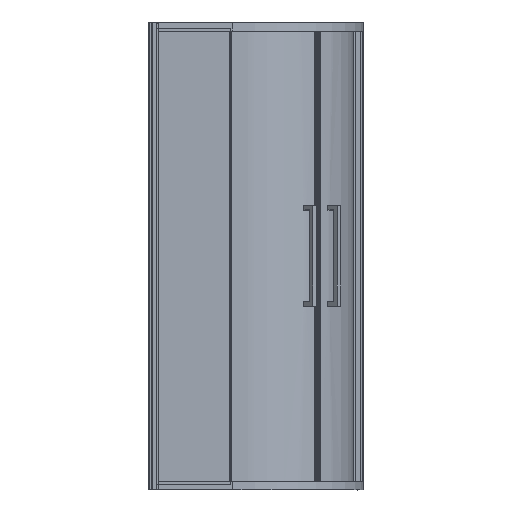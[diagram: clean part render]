
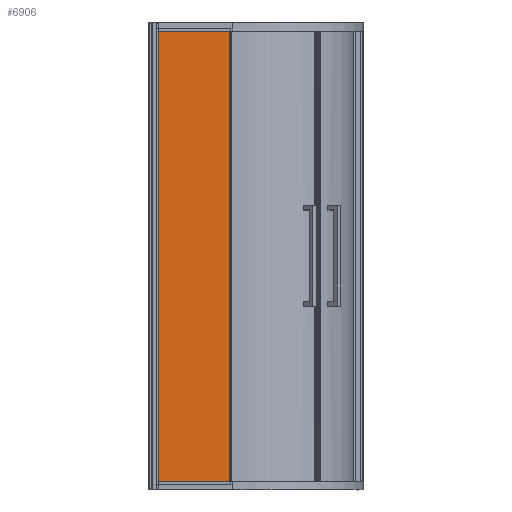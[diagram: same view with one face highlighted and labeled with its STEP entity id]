
A CAD part, front view. The second image highlights one B-rep face of the part: STEP entity #6906.
In plain terms, the highlighted planar face has unit normal (0, -1, 0) as drawn and (0, 0, 1) by its records, which use the part's own axes.
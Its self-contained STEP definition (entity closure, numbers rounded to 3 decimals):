
#6791=DIRECTION('',(0.,-1.,0.));
#6792=VECTOR('',#6791,1900.);
#6793=CARTESIAN_POINT('',(-155.,950.,4.));
#6794=LINE('',#6793,#6792);
#6795=DIRECTION('',(-1.,0.,0.));
#6796=VECTOR('',#6795,310.);
#6797=CARTESIAN_POINT('',(155.,950.,4.));
#6798=LINE('',#6797,#6796);
#6799=DIRECTION('',(0.,1.,0.));
#6800=VECTOR('',#6799,1900.);
#6801=CARTESIAN_POINT('',(155.,-950.,4.));
#6802=LINE('',#6801,#6800);
#6803=DIRECTION('',(1.,0.,0.));
#6804=VECTOR('',#6803,310.);
#6805=CARTESIAN_POINT('',(-155.,-950.,4.));
#6806=LINE('',#6805,#6804);
#6815=CARTESIAN_POINT('',(-155.,950.,4.));
#6816=CARTESIAN_POINT('',(-155.,-950.,4.));
#6817=VERTEX_POINT('',#6815);
#6818=VERTEX_POINT('',#6816);
#6819=CARTESIAN_POINT('',(155.,-950.,4.));
#6820=VERTEX_POINT('',#6819);
#6821=CARTESIAN_POINT('',(155.,950.,4.));
#6822=VERTEX_POINT('',#6821);
#6895=CARTESIAN_POINT('',(0.,0.,4.));
#6896=DIRECTION('',(0.,0.,1.));
#6897=DIRECTION('',(1.,0.,0.));
#6898=AXIS2_PLACEMENT_3D('',#6895,#6896,#6897);
#6899=PLANE('',#6898);
#6900=ORIENTED_EDGE('',*,*,#6847,.F.);
#6901=ORIENTED_EDGE('',*,*,#6862,.F.);
#6902=ORIENTED_EDGE('',*,*,#6876,.F.);
#6903=ORIENTED_EDGE('',*,*,#6889,.F.);
#6904=EDGE_LOOP('',(#6900,#6901,#6902,#6903));
#6905=FACE_OUTER_BOUND('',#6904,.F.);
#6906=ADVANCED_FACE('',(#6905),#6899,.T.);
#6847=EDGE_CURVE('',#6817,#6818,#6794,.T.);
#6862=EDGE_CURVE('',#6822,#6817,#6798,.T.);
#6876=EDGE_CURVE('',#6820,#6822,#6802,.T.);
#6889=EDGE_CURVE('',#6818,#6820,#6806,.T.);
